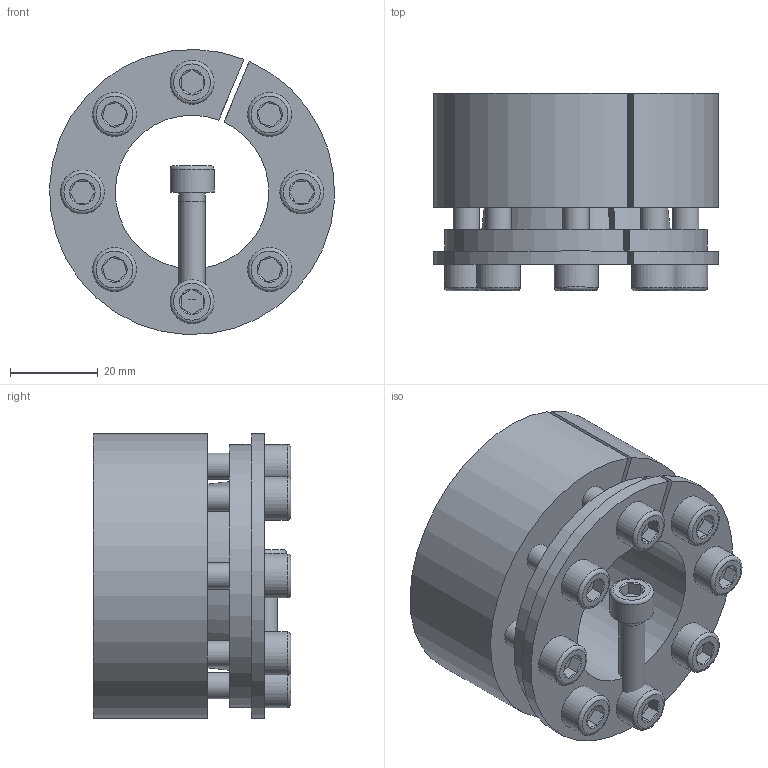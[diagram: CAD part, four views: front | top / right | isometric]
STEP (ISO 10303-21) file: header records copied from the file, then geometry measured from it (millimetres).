
FILE_DESCRIPTION( ( 'Unknown' ), '1' );
FILE_NAME( 'C:/Dokumente und Einstellungen/Sven/Desktop/homepage/cad - homepage/KBS70/KBS 70 - 35 x 65.stp', 'Unknown', ( 'Unknown' ), ( 'Unknown' ), 'XStep 1.0', 'Unknown', ' ' );
FILE_SCHEMA( ( 'automotive_design' ) );
Length unit declared in the file: millimetre
Products named in the file (3): Assem1; KBS 70 - 35 x 65; ISO EN DIN 4762 M6x25
Bounding box: 64.93 x 45 x 64.95 mm (x, y, z)
Volume: 152625.1 mm3; surface area: 58745.7 mm2
Topology: 11 solids, 11 shells, 285 faces, 583 edges, 356 vertices
Faces by surface type: plane 124, cylinder 76, cone 67, torus 18
Full cylindrical faces by diameter (mm): 5 x9, 6 x50, 10 x9
Entity records: 1882 total; most frequent: CARTESIAN_POINT 305, DIRECTION 284, ORIENTED_EDGE 206, AXIS2_PLACEMENT_3D 126, EDGE_LOOP 114, EDGE_CURVE 103, VERTEX_POINT 79, FACE_OUTER_BOUND 77
